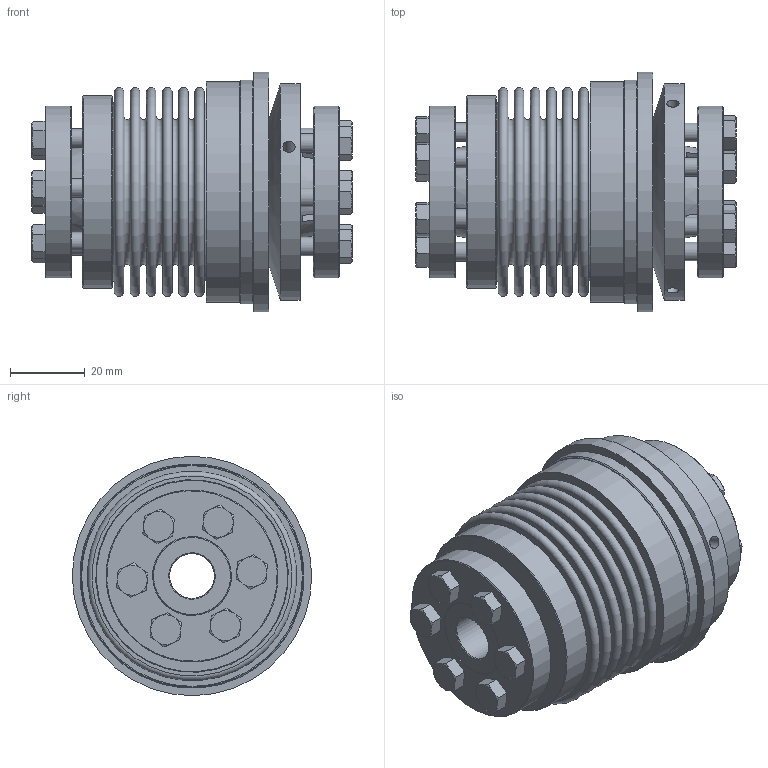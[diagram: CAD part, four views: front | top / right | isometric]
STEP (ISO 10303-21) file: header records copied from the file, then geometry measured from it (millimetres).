
FILE_DESCRIPTION( ( 'Unknown' ), '1' );
FILE_NAME( 'K:/Konstruktion/Korrigierte 3D Modelle/KBK-B-AA/KBK-BAA-30-87.stp', 'Unknown', ( 'Unknown' ), ( 'Unknown' ), 'PSStep 16.0.42', 'Unknown', ' ' );
FILE_SCHEMA( ( 'AUTOMOTIVE_DESIGN { 1 0 10303 214 1 1 1 1 }' ) );
Length unit declared in the file: millimetre
Products named in the file (18): L-A-30 Grundkörper_0; Druckring L-A-30_0; Stellring 30_0; din_en_24017_m5x16_0; Druckring 30_0; BA6-30; Hex Screw GradeC_DIN_ISO 4018 - M5 x 16-NN; BA30_Standard; DR30_Standard; A-30; Assem1; BL30_Standard_0; Flansch BK30
Assembly tree (27 placements, depth 4):
  Assem1
    BL30_Standard_0
    Flansch BK30
    BA6-30
      Hex Screw GradeC_DIN_ISO 4018 - M5 x 16-NN  x6
      BA30_Standard
      DR30_Standard
    A-30
      Stellring 30_0
        Stellring 30_0
      Druckring 30_0
        Druckring 30_0
      L-A-30 Grundkörper_0
        L-A-30 Grundkörper_0
      din_en_24017_m5x16_0  x6
        din_en_24017_m5x16_0
      Druckring L-A-30_0
        Druckring L-A-30_0
Bounding box: 85.55 x 64 x 64 mm (x, y, z)
Volume: 110145.5 mm3; surface area: 85905.4 mm2
Topology: 20 solids, 20 shells, 403 faces, 835 edges, 530 vertices
Faces by surface type: plane 188, cone 114, cylinder 69, torus 32
Full cylindrical faces by diameter (mm): 3.242 x3, 4.134 x6, 4.2 x6, 5 x12, 5.5 x12, 6.88 x6, 12 x2, 23.9 x1, 24.526 x1, 24.7 x1, 25 x2, 34 x1, 37 x1, 38 x2, 40 x1, 46 x2, 46.5 x2, 47.3 x2, 51.5 x1, 52 x1, 58 x1, 59 x1, 60 x1, 64 x1
Entity records: 7406 total; most frequent: CARTESIAN_POINT 1189, DIRECTION 978, ORIENTED_EDGE 600, AXIS2_PLACEMENT_3D 465, EDGE_LOOP 410, EDGE_CURVE 300, FACE_OUTER_BOUND 289, VERTEX_POINT 268
